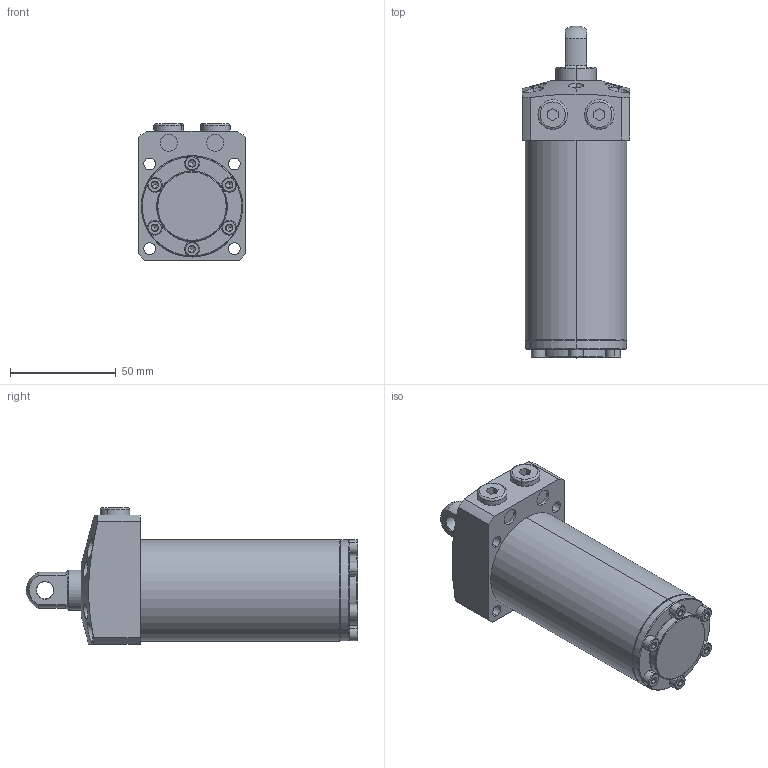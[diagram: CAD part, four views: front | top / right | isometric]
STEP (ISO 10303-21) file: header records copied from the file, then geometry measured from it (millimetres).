
FILE_DESCRIPTION (( 'STEP AP203' ), '1' );
FILE_NAME ('680480-CP-076.STEP', '2019-11-06T04:39:10', ( '微软用户' ), ( '微软中国' ), 'SwSTEP 2.0', 'SolidWorks 2014', '' );
FILE_SCHEMA (( 'CONFIG_CONTROL_DESIGN' ));
Length unit declared in the file: millimetre
Products named in the file (7): 葩璃 680480-CA-51-4^680480-CP-076; 葩璃 680480-CA-51-3^680480-CP-076; 葩璃 680480-CA-51-5^680480-CP-076; 葩璃 680480-15-13^680480-CP-076; 葩璃 680480-CA-51-6^680480-CP-076; 680480-CP-076; 葩璃 680480-CA-51-1^680480-CP-076
Assembly tree (17 placements, depth 2):
  680480-CP-076
    葩璃 680480-CA-51-1^680480-CP-076
    葩璃 680480-CA-51-4^680480-CP-076
    葩璃 680480-CA-51-3^680480-CP-076  x6
    葩璃 680480-CA-51-5^680480-CP-076  x6
    葩璃 680480-CA-51-6^680480-CP-076  x2
    葩璃 680480-15-13^680480-CP-076
Bounding box: 51 x 157 x 64.5 mm (x, y, z)
Volume: 261791.9 mm3; surface area: 50693.9 mm2
Topology: 17 solids, 17 shells, 546 faces, 1034 edges, 542 vertices
Faces by surface type: plane 233, cone 168, cylinder 127, torus 16, sphere 2
Entity records: 7422 total; most frequent: CARTESIAN_POINT 1756, DIRECTION 1071, ORIENTED_EDGE 872, AXIS2_PLACEMENT_3D 449, EDGE_CURVE 436, VERTEX_POINT 260, EDGE_LOOP 254, CIRCLE 219
